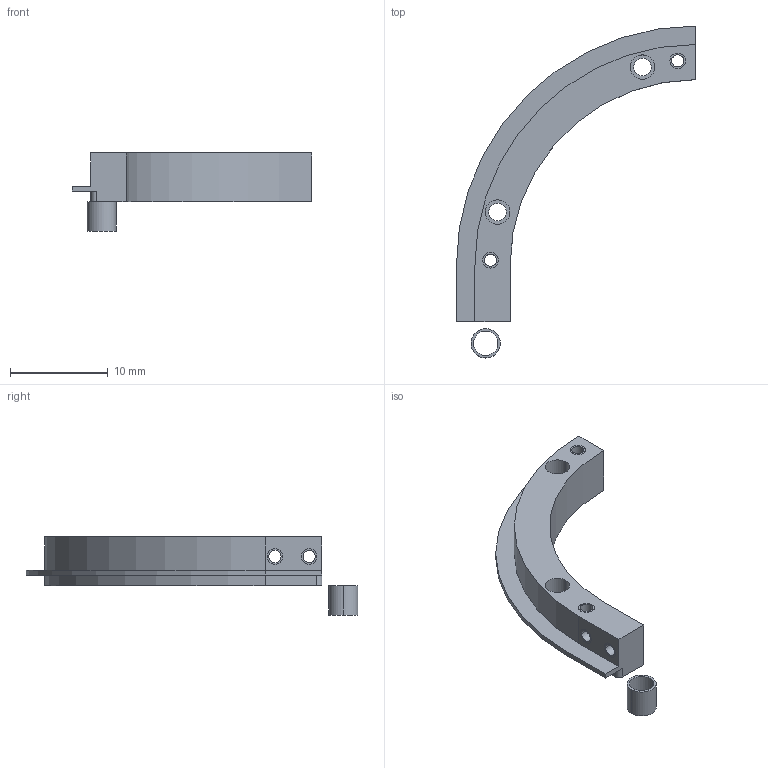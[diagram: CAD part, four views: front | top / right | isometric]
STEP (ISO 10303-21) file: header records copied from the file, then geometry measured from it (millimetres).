
FILE_DESCRIPTION((''),'2;1');
FILE_NAME('ANNTENA_JIGU_A2','2020-03-13T',('g0715'),(''),'PRO/ENGINEER BY PARAMETRIC TECHNOLOGY CORPORATION, 2014090','PRO/ENGINEER BY PARAMETRIC TECHNOLOGY CORPORATION, 2014090','');
FILE_SCHEMA(('CONFIG_CONTROL_DESIGN'));
Length unit declared in the file: millimetre
Products named in the file (1): ANNTENA_JIGU_A2
Bounding box: 24.5 x 34 x 8 mm (x, y, z)
Volume: 674.6 mm3; surface area: 1072.2 mm2
Topology: 1 solids, 6 shells, 49 faces, 130 edges, 90 vertices
Faces by surface type: cylinder 32, plane 17
Entity records: 1634 total; most frequent: DIRECTION 304, CARTESIAN_POINT 270, ORIENTED_EDGE 240, EDGE_CURVE 130, AXIS2_PLACEMENT_3D 124, VERTEX_POINT 90, CIRCLE 74, EDGE_LOOP 68
